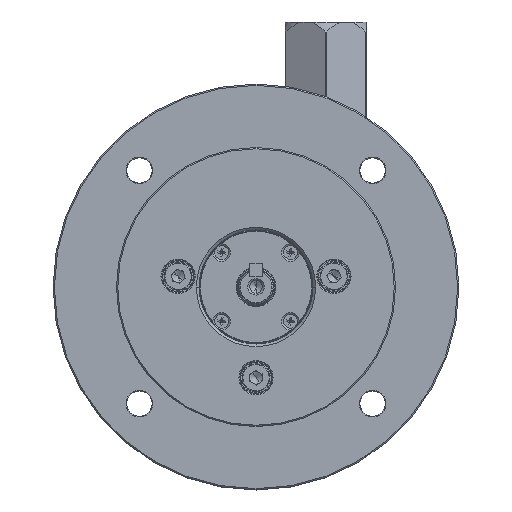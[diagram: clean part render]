
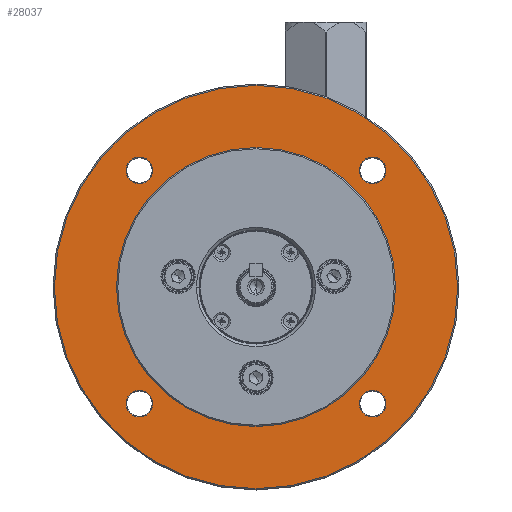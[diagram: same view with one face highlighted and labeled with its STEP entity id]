
A CAD part, top view. The second image highlights one B-rep face of the part: STEP entity #28037.
In plain terms, the highlighted planar face has unit normal (0, 0, 1).
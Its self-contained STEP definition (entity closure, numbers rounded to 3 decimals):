
#237 = DIRECTION ( 'NONE',  ( -1., 0., 0. ) ) ;
#529 = VERTEX_POINT ( 'NONE', #18415 ) ;
#1219 = VERTEX_POINT ( 'NONE', #24896 ) ;
#1676 = CARTESIAN_POINT ( 'NONE',  ( -79.5, 3.97, 39.525 ) ) ;
#3010 = DIRECTION ( 'NONE',  ( 0., 0., -1. ) ) ;
#3118 = CARTESIAN_POINT ( 'NONE',  ( -55., 3.97, 39.525 ) ) ;
#3960 = AXIS2_PLACEMENT_3D ( 'NONE', #68364, #10264, #43535 ) ;
#4861 = ORIENTED_EDGE ( 'NONE', *, *, #38713, .T. ) ;
#5232 = VERTEX_POINT ( 'NONE', #66507 ) ;
#5494 = CARTESIAN_POINT ( 'NONE',  ( 79.5, 3.97, 39.525 ) ) ;
#5503 = CIRCLE ( 'NONE', #14374, 5.25 ) ;
#6081 = CIRCLE ( 'NONE', #39837, 5.25 ) ;
#6306 = CARTESIAN_POINT ( 'NONE',  ( 55., 3.97, 39.525 ) ) ;
#6676 = FACE_OUTER_BOUND ( 'NONE', #51068, .T. ) ;
#6725 = AXIS2_PLACEMENT_3D ( 'NONE', #25814, #66828, #26066 ) ;
#6790 = ORIENTED_EDGE ( 'NONE', *, *, #61096, .T. ) ;
#6794 = CARTESIAN_POINT ( 'NONE',  ( 45.962, -41.992, 39.525 ) ) ;
#7821 = ORIENTED_EDGE ( 'NONE', *, *, #31944, .F. ) ;
#10264 = DIRECTION ( 'NONE',  ( 0., 0., -1. ) ) ;
#10284 = CIRCLE ( 'NONE', #25327, 55. ) ;
#11368 = CARTESIAN_POINT ( 'NONE',  ( -45.962, 49.932, 39.525 ) ) ;
#11537 = CARTESIAN_POINT ( 'NONE',  ( -40.712, 49.932, 39.525 ) ) ;
#11552 = EDGE_CURVE ( 'NONE', #27463, #1219, #6081, .T. ) ;
#12121 = DIRECTION ( 'NONE',  ( -1., 0., 0. ) ) ;
#12675 = CARTESIAN_POINT ( 'NONE',  ( 40.712, -41.992, 39.525 ) ) ;
#13382 = CARTESIAN_POINT ( 'NONE',  ( -51.212, -41.992, 39.525 ) ) ;
#14374 = AXIS2_PLACEMENT_3D ( 'NONE', #70086, #17991, #63772 ) ;
#14555 = EDGE_LOOP ( 'NONE', ( #33895, #4861 ) ) ;
#15074 = DIRECTION ( 'NONE',  ( 0., 0., -1. ) ) ;
#15651 = ORIENTED_EDGE ( 'NONE', *, *, #53602, .T. ) ;
#16804 = CIRCLE ( 'NONE', #6725, 55. ) ;
#17589 = DIRECTION ( 'NONE',  ( 0., 0., 1. ) ) ;
#17991 = DIRECTION ( 'NONE',  ( 0., 0., -1. ) ) ;
#18415 = CARTESIAN_POINT ( 'NONE',  ( -51.212, 49.932, 39.525 ) ) ;
#18536 = EDGE_CURVE ( 'NONE', #53872, #31952, #45750, .T. ) ;
#19127 = DIRECTION ( 'NONE',  ( 0., 0., -1. ) ) ;
#19600 = DIRECTION ( 'NONE',  ( 1., 0., 0. ) ) ;
#19883 = CARTESIAN_POINT ( 'NONE',  ( 51.212, -41.992, 39.525 ) ) ;
#19953 = AXIS2_PLACEMENT_3D ( 'NONE', #11368, #63144, #237 ) ;
#20790 = CARTESIAN_POINT ( 'NONE',  ( 45.962, 49.932, 39.525 ) ) ;
#22271 = CIRCLE ( 'NONE', #28824, 79.5 ) ;
#24775 = DIRECTION ( 'NONE',  ( 0., 0., -1. ) ) ;
#24896 = CARTESIAN_POINT ( 'NONE',  ( 40.712, 49.932, 39.525 ) ) ;
#25182 = ORIENTED_EDGE ( 'NONE', *, *, #57007, .T. ) ;
#25327 = AXIS2_PLACEMENT_3D ( 'NONE', #42894, #71983, #19600 ) ;
#25565 = FACE_BOUND ( 'NONE', #43525, .T. ) ;
#25814 = CARTESIAN_POINT ( 'NONE',  ( 0., 3.97, 39.525 ) ) ;
#26066 = DIRECTION ( 'NONE',  ( 1., 0., 0. ) ) ;
#26624 = ORIENTED_EDGE ( 'NONE', *, *, #27353, .T. ) ;
#27353 = EDGE_CURVE ( 'NONE', #5232, #33417, #33854, .T. ) ;
#27463 = VERTEX_POINT ( 'NONE', #72139 ) ;
#28037 = ADVANCED_FACE ( 'NONE', ( #25565, #41877, #68769, #48107, #66082, #6676 ), #68692, .T. ) ;
#28546 = EDGE_LOOP ( 'NONE', ( #73193, #26624 ) ) ;
#28824 = AXIS2_PLACEMENT_3D ( 'NONE', #54014, #24775, #60016 ) ;
#29489 = CIRCLE ( 'NONE', #3960, 5.25 ) ;
#31226 = EDGE_CURVE ( 'NONE', #74631, #69237, #22271, .T. ) ;
#31944 = EDGE_CURVE ( 'NONE', #69237, #74631, #33036, .T. ) ;
#31952 = VERTEX_POINT ( 'NONE', #19883 ) ;
#33036 = CIRCLE ( 'NONE', #65962, 79.5 ) ;
#33049 = CIRCLE ( 'NONE', #19953, 5.25 ) ;
#33288 = EDGE_LOOP ( 'NONE', ( #25182, #15651 ) ) ;
#33417 = VERTEX_POINT ( 'NONE', #13382 ) ;
#33854 = CIRCLE ( 'NONE', #36601, 5.25 ) ;
#33895 = ORIENTED_EDGE ( 'NONE', *, *, #18536, .T. ) ;
#34792 = ORIENTED_EDGE ( 'NONE', *, *, #48181, .T. ) ;
#36601 = AXIS2_PLACEMENT_3D ( 'NONE', #49724, #43307, #55027 ) ;
#37158 = CIRCLE ( 'NONE', #68614, 5.25 ) ;
#38052 = CARTESIAN_POINT ( 'NONE',  ( 45.962, -41.992, 39.525 ) ) ;
#38483 = DIRECTION ( 'NONE',  ( -1., 0., 0. ) ) ;
#38713 = EDGE_CURVE ( 'NONE', #31952, #53872, #37158, .T. ) ;
#39244 = VERTEX_POINT ( 'NONE', #11537 ) ;
#39837 = AXIS2_PLACEMENT_3D ( 'NONE', #20790, #3010, #55302 ) ;
#40433 = AXIS2_PLACEMENT_3D ( 'NONE', #38052, #15074, #66630 ) ;
#41877 = FACE_BOUND ( 'NONE', #71927, .T. ) ;
#42727 = ORIENTED_EDGE ( 'NONE', *, *, #11552, .T. ) ;
#42894 = CARTESIAN_POINT ( 'NONE',  ( 0., 3.97, 39.525 ) ) ;
#43307 = DIRECTION ( 'NONE',  ( 0., 0., -1. ) ) ;
#43525 = EDGE_LOOP ( 'NONE', ( #34792, #74336 ) ) ;
#43535 = DIRECTION ( 'NONE',  ( -1., 0., 0. ) ) ;
#45750 = CIRCLE ( 'NONE', #40433, 5.25 ) ;
#46477 = EDGE_CURVE ( 'NONE', #33417, #5232, #29489, .T. ) ;
#48107 = FACE_BOUND ( 'NONE', #14555, .T. ) ;
#48181 = EDGE_CURVE ( 'NONE', #529, #39244, #5503, .T. ) ;
#49724 = CARTESIAN_POINT ( 'NONE',  ( -45.962, -41.992, 39.525 ) ) ;
#51068 = EDGE_LOOP ( 'NONE', ( #65497, #7821 ) ) ;
#52807 = AXIS2_PLACEMENT_3D ( 'NONE', #72870, #60778, #38483 ) ;
#53602 = EDGE_CURVE ( 'NONE', #61734, #73958, #16804, .T. ) ;
#53652 = CARTESIAN_POINT ( 'NONE',  ( 0., 3.97, 39.525 ) ) ;
#53872 = VERTEX_POINT ( 'NONE', #12675 ) ;
#54014 = CARTESIAN_POINT ( 'NONE',  ( 0., 3.97, 39.525 ) ) ;
#55027 = DIRECTION ( 'NONE',  ( -1., 0., 0. ) ) ;
#55302 = DIRECTION ( 'NONE',  ( -1., 0., 0. ) ) ;
#57007 = EDGE_CURVE ( 'NONE', #73958, #61734, #10284, .T. ) ;
#57113 = DIRECTION ( 'NONE',  ( -1., 0., 0. ) ) ;
#59460 = DIRECTION ( 'NONE',  ( 1., 0., 0. ) ) ;
#60016 = DIRECTION ( 'NONE',  ( 1., 0., 0. ) ) ;
#60778 = DIRECTION ( 'NONE',  ( 0., 0., -1. ) ) ;
#61096 = EDGE_CURVE ( 'NONE', #1219, #27463, #74507, .T. ) ;
#61734 = VERTEX_POINT ( 'NONE', #3118 ) ;
#62890 = CARTESIAN_POINT ( 'NONE',  ( 0., -51.03, 39.525 ) ) ;
#63144 = DIRECTION ( 'NONE',  ( 0., 0., -1. ) ) ;
#63772 = DIRECTION ( 'NONE',  ( -1., 0., 0. ) ) ;
#64386 = EDGE_CURVE ( 'NONE', #39244, #529, #33049, .T. ) ;
#65497 = ORIENTED_EDGE ( 'NONE', *, *, #31226, .F. ) ;
#65962 = AXIS2_PLACEMENT_3D ( 'NONE', #53652, #19127, #59460 ) ;
#66082 = FACE_BOUND ( 'NONE', #33288, .T. ) ;
#66456 = AXIS2_PLACEMENT_3D ( 'NONE', #62890, #17589, #57113 ) ;
#66507 = CARTESIAN_POINT ( 'NONE',  ( -40.712, -41.992, 39.525 ) ) ;
#66630 = DIRECTION ( 'NONE',  ( -1., 0., 0. ) ) ;
#66828 = DIRECTION ( 'NONE',  ( 0., 0., -1. ) ) ;
#68364 = CARTESIAN_POINT ( 'NONE',  ( -45.962, -41.992, 39.525 ) ) ;
#68614 = AXIS2_PLACEMENT_3D ( 'NONE', #6794, #69707, #12121 ) ;
#68692 = PLANE ( 'NONE',  #66456 ) ;
#68769 = FACE_BOUND ( 'NONE', #28546, .T. ) ;
#69237 = VERTEX_POINT ( 'NONE', #1676 ) ;
#69707 = DIRECTION ( 'NONE',  ( 0., 0., -1. ) ) ;
#70086 = CARTESIAN_POINT ( 'NONE',  ( -45.962, 49.932, 39.525 ) ) ;
#71927 = EDGE_LOOP ( 'NONE', ( #6790, #42727 ) ) ;
#71983 = DIRECTION ( 'NONE',  ( 0., 0., -1. ) ) ;
#72139 = CARTESIAN_POINT ( 'NONE',  ( 51.212, 49.932, 39.525 ) ) ;
#72870 = CARTESIAN_POINT ( 'NONE',  ( 45.962, 49.932, 39.525 ) ) ;
#73193 = ORIENTED_EDGE ( 'NONE', *, *, #46477, .T. ) ;
#73958 = VERTEX_POINT ( 'NONE', #6306 ) ;
#74336 = ORIENTED_EDGE ( 'NONE', *, *, #64386, .T. ) ;
#74507 = CIRCLE ( 'NONE', #52807, 5.25 ) ;
#74631 = VERTEX_POINT ( 'NONE', #5494 ) ;
